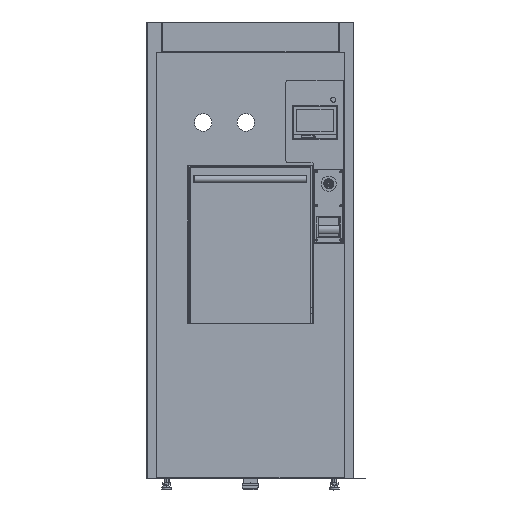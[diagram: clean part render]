
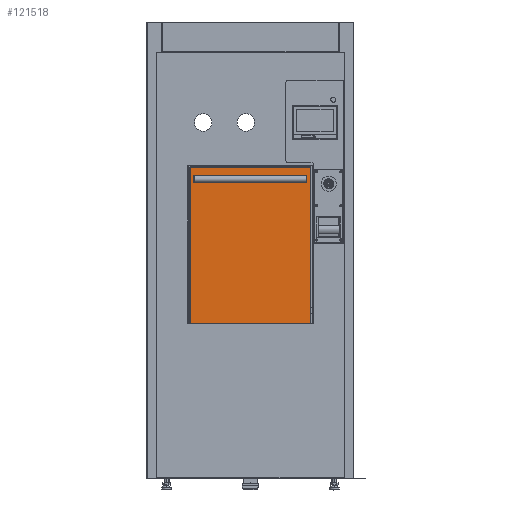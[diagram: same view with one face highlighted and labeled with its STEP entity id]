
A CAD part, top view. The second image highlights one B-rep face of the part: STEP entity #121518.
In plain terms, the highlighted planar face has unit normal (0, 0, 1).
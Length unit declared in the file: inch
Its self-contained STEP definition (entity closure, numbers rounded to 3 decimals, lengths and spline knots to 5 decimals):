
#5563 = CARTESIAN_POINT ( 'NONE',  ( 9.9375, 13.4375, 0.048 ) ) ;
#6649 = VECTOR ( 'NONE', #90597, 39.37008 ) ;
#17233 = AXIS2_PLACEMENT_3D ( 'NONE', #5563, #111773, #134442 ) ;
#18389 = VECTOR ( 'NONE', #101823, 39.37008 ) ;
#20520 = DIRECTION ( 'NONE',  ( 0., 1., 0. ) ) ;
#22349 = ORIENTED_EDGE ( 'NONE', *, *, #43680, .T. ) ;
#28390 = VERTEX_POINT ( 'NONE', #137941 ) ;
#32233 = DIRECTION ( 'NONE',  ( -1., 0., 0. ) ) ;
#35844 = EDGE_LOOP ( 'NONE', ( #22349, #124285, #76331, #88079 ) ) ;
#36581 = EDGE_CURVE ( 'NONE', #28390, #39784, #55717, .T. ) ;
#39784 = VERTEX_POINT ( 'NONE', #149820 ) ;
#40898 = CARTESIAN_POINT ( 'NONE',  ( -9.86166, -13.3585, 0.048 ) ) ;
#41420 = LINE ( 'NONE', #114802, #6649 ) ;
#43680 = EDGE_CURVE ( 'NONE', #70454, #28390, #65893, .T. ) ;
#50914 = PLANE ( 'NONE',  #17233 ) ;
#53406 = LINE ( 'NONE', #128256, #71644 ) ;
#55717 = LINE ( 'NONE', #126755, #98267 ) ;
#65893 = LINE ( 'NONE', #40898, #18389 ) ;
#70454 = VERTEX_POINT ( 'NONE', #71336 ) ;
#71336 = CARTESIAN_POINT ( 'NONE',  ( -9.8585, -13.3585, 0.048 ) ) ;
#71644 = VECTOR ( 'NONE', #32233, 39.37008 ) ;
#76331 = ORIENTED_EDGE ( 'NONE', *, *, #149552, .T. ) ;
#79861 = CARTESIAN_POINT ( 'NONE',  ( -9.8585, 13.3585, 0.048 ) ) ;
#85240 = EDGE_CURVE ( 'NONE', #153818, #70454, #41420, .T. ) ;
#85278 = FACE_OUTER_BOUND ( 'NONE', #35844, .T. ) ;
#88079 = ORIENTED_EDGE ( 'NONE', *, *, #85240, .T. ) ;
#90597 = DIRECTION ( 'NONE',  ( 0., -1., 0. ) ) ;
#98267 = VECTOR ( 'NONE', #20520, 39.37008 ) ;
#101823 = DIRECTION ( 'NONE',  ( 1., 0., 0. ) ) ;
#111773 = DIRECTION ( 'NONE',  ( 0., 0., -1. ) ) ;
#114802 = CARTESIAN_POINT ( 'NONE',  ( -9.8585, 13.36166, 0.048 ) ) ;
#121518 = ADVANCED_FACE ( 'NONE', ( #85278 ), #50914, .F. ) ;
#124285 = ORIENTED_EDGE ( 'NONE', *, *, #36581, .T. ) ;
#126755 = CARTESIAN_POINT ( 'NONE',  ( 9.8585, -13.36166, 0.048 ) ) ;
#128256 = CARTESIAN_POINT ( 'NONE',  ( 9.86166, 13.3585, 0.048 ) ) ;
#134442 = DIRECTION ( 'NONE',  ( -1., 0., 0. ) ) ;
#137941 = CARTESIAN_POINT ( 'NONE',  ( 9.8585, -13.3585, 0.048 ) ) ;
#149552 = EDGE_CURVE ( 'NONE', #39784, #153818, #53406, .T. ) ;
#149820 = CARTESIAN_POINT ( 'NONE',  ( 9.8585, 13.3585, 0.048 ) ) ;
#153818 = VERTEX_POINT ( 'NONE', #79861 ) ;
